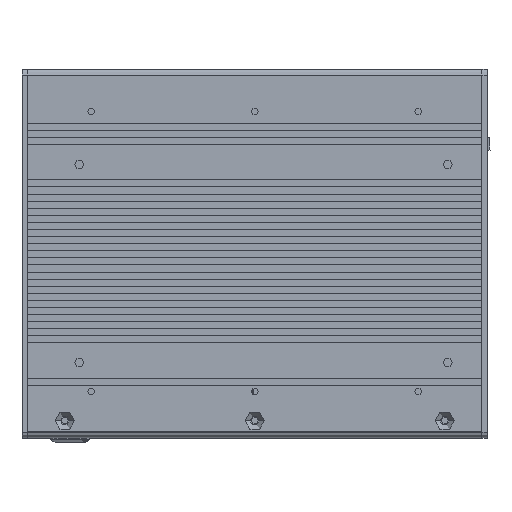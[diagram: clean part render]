
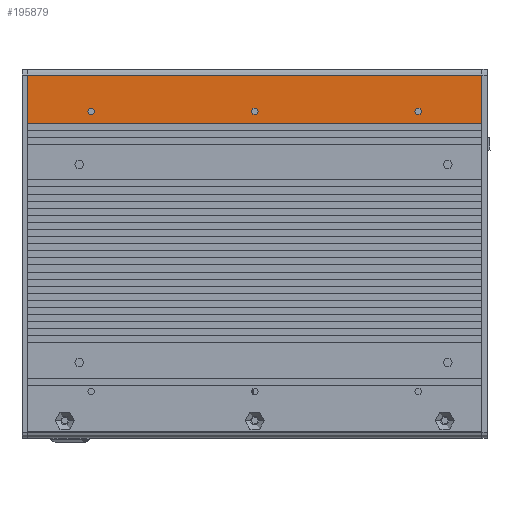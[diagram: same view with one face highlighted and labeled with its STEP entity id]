
A CAD part, top view. The second image highlights one B-rep face of the part: STEP entity #195879.
In plain terms, the highlighted planar face has unit normal (0, 0, 1) as drawn and (0, 1, 0) by its records, which use the part's own axes.
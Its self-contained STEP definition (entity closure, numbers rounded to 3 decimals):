
#8408 = ORIENTED_EDGE ( 'NONE', *, *, #136841, .T. ) ;
#13797 = DIRECTION ( 'NONE',  ( 0., 0., -1. ) ) ;
#14610 = CARTESIAN_POINT ( 'NONE',  ( -50.22, 43.5, -57.73 ) ) ;
#18547 = CARTESIAN_POINT ( 'NONE',  ( -62.5, 43.5, 80.1 ) ) ;
#21776 = DIRECTION ( 'NONE',  ( -1., 0., 0. ) ) ;
#24875 = ORIENTED_EDGE ( 'NONE', *, *, #317204, .T. ) ;
#25949 = CIRCLE ( 'NONE', #66932, 1.25 ) ;
#33882 = VECTOR ( 'NONE', #187851, 1000. ) ;
#39908 = CARTESIAN_POINT ( 'NONE',  ( -50.22, 43.5, 0. ) ) ;
#40564 = AXIS2_PLACEMENT_3D ( 'NONE', #167021, #112087, #335372 ) ;
#40950 = VERTEX_POINT ( 'NONE', #45531 ) ;
#43123 = ORIENTED_EDGE ( 'NONE', *, *, #322370, .T. ) ;
#44943 = CARTESIAN_POINT ( 'NONE',  ( -50.22, 43.5, -58.98 ) ) ;
#45531 = CARTESIAN_POINT ( 'NONE',  ( -50.22, 43.5, -1.25 ) ) ;
#46140 = AXIS2_PLACEMENT_3D ( 'NONE', #235263, #266265, #13797 ) ;
#66932 = AXIS2_PLACEMENT_3D ( 'NONE', #39908, #235702, #210021 ) ;
#68463 = EDGE_CURVE ( 'NONE', #103810, #198236, #177602, .T. ) ;
#71883 = AXIS2_PLACEMENT_3D ( 'NONE', #312553, #338195, #91117 ) ;
#72129 = AXIS2_PLACEMENT_3D ( 'NONE', #18547, #294870, #130119 ) ;
#72777 = CARTESIAN_POINT ( 'NONE',  ( -63., 43.5, 80.1 ) ) ;
#76208 = DIRECTION ( 'NONE',  ( 0., -1., 0. ) ) ;
#76413 = VERTEX_POINT ( 'NONE', #115698 ) ;
#76551 = CARTESIAN_POINT ( 'NONE',  ( -46., 43.5, 80.1 ) ) ;
#80767 = EDGE_LOOP ( 'NONE', ( #193936, #238478 ) ) ;
#91117 = DIRECTION ( 'NONE',  ( 0., 0., -1. ) ) ;
#93437 = DIRECTION ( 'NONE',  ( -1., 0., 0. ) ) ;
#94961 = EDGE_CURVE ( 'NONE', #40950, #240810, #25949, .T. ) ;
#102221 = CARTESIAN_POINT ( 'NONE',  ( -63., 43.5, 80.1 ) ) ;
#102713 = FACE_BOUND ( 'NONE', #212433, .T. ) ;
#103293 = ORIENTED_EDGE ( 'NONE', *, *, #68463, .F. ) ;
#103810 = VERTEX_POINT ( 'NONE', #76551 ) ;
#112087 = DIRECTION ( 'NONE',  ( 0., -1., 0. ) ) ;
#115698 = CARTESIAN_POINT ( 'NONE',  ( -50.22, 43.5, 56.48 ) ) ;
#116484 = VERTEX_POINT ( 'NONE', #218767 ) ;
#116933 = EDGE_CURVE ( 'NONE', #220495, #230314, #186589, .T. ) ;
#130119 = DIRECTION ( 'NONE',  ( 0., 0., -1. ) ) ;
#130892 = ORIENTED_EDGE ( 'NONE', *, *, #208534, .T. ) ;
#136841 = EDGE_CURVE ( 'NONE', #239756, #198236, #248336, .T. ) ;
#138244 = AXIS2_PLACEMENT_3D ( 'NONE', #14610, #239641, #182967 ) ;
#148310 = CARTESIAN_POINT ( 'NONE',  ( -62.5, 43.5, 80.1 ) ) ;
#154002 = PLANE ( 'NONE',  #72129 ) ;
#157623 = FACE_BOUND ( 'NONE', #80767, .T. ) ;
#160432 = LINE ( 'NONE', #354426, #33882 ) ;
#167021 = CARTESIAN_POINT ( 'NONE',  ( -50.22, 43.5, -57.73 ) ) ;
#172536 = ORIENTED_EDGE ( 'NONE', *, *, #94961, .T. ) ;
#177602 = LINE ( 'NONE', #148310, #283563 ) ;
#182967 = DIRECTION ( 'NONE',  ( 0., 0., -1. ) ) ;
#184459 = DIRECTION ( 'NONE',  ( 0., 0., 1. ) ) ;
#184716 = LINE ( 'NONE', #219370, #266486 ) ;
#186589 = CIRCLE ( 'NONE', #40564, 1.25 ) ;
#187851 = DIRECTION ( 'NONE',  ( 0., 0., 1. ) ) ;
#193936 = ORIENTED_EDGE ( 'NONE', *, *, #206824, .T. ) ;
#195879 = ADVANCED_FACE ( 'NONE', ( #293080, #157623, #102713, #214336 ), #154002, .F. ) ;
#197951 = CIRCLE ( 'NONE', #46140, 1.25 ) ;
#198236 = VERTEX_POINT ( 'NONE', #102221 ) ;
#198394 = EDGE_LOOP ( 'NONE', ( #172536, #24875 ) ) ;
#204368 = EDGE_CURVE ( 'NONE', #116484, #239756, #184716, .T. ) ;
#206824 = EDGE_CURVE ( 'NONE', #230314, #220495, #208524, .T. ) ;
#207985 = CARTESIAN_POINT ( 'NONE',  ( -50.22, 43.5, 58.98 ) ) ;
#208524 = CIRCLE ( 'NONE', #138244, 1.25 ) ;
#208534 = EDGE_CURVE ( 'NONE', #273268, #76413, #197951, .T. ) ;
#210021 = DIRECTION ( 'NONE',  ( 0., 0., -1. ) ) ;
#212433 = EDGE_LOOP ( 'NONE', ( #43123, #130892 ) ) ;
#213534 = DIRECTION ( 'NONE',  ( 0., 0., -1. ) ) ;
#214336 = FACE_OUTER_BOUND ( 'NONE', #237733, .T. ) ;
#215322 = CARTESIAN_POINT ( 'NONE',  ( -50.22, 43.5, 57.73 ) ) ;
#215999 = ORIENTED_EDGE ( 'NONE', *, *, #204368, .T. ) ;
#218767 = CARTESIAN_POINT ( 'NONE',  ( -46., 43.5, -80.1 ) ) ;
#219370 = CARTESIAN_POINT ( 'NONE',  ( -62.5, 43.5, -80.1 ) ) ;
#220495 = VERTEX_POINT ( 'NONE', #356578 ) ;
#230314 = VERTEX_POINT ( 'NONE', #44943 ) ;
#235263 = CARTESIAN_POINT ( 'NONE',  ( -50.22, 43.5, 57.73 ) ) ;
#235702 = DIRECTION ( 'NONE',  ( 0., -1., 0. ) ) ;
#237733 = EDGE_LOOP ( 'NONE', ( #103293, #286439, #215999, #8408 ) ) ;
#238478 = ORIENTED_EDGE ( 'NONE', *, *, #116933, .T. ) ;
#239641 = DIRECTION ( 'NONE',  ( 0., -1., 0. ) ) ;
#239756 = VERTEX_POINT ( 'NONE', #322751 ) ;
#240810 = VERTEX_POINT ( 'NONE', #257760 ) ;
#248336 = LINE ( 'NONE', #72777, #312722 ) ;
#257760 = CARTESIAN_POINT ( 'NONE',  ( -50.22, 43.5, 1.25 ) ) ;
#259791 = AXIS2_PLACEMENT_3D ( 'NONE', #215322, #76208, #213534 ) ;
#266265 = DIRECTION ( 'NONE',  ( 0., -1., 0. ) ) ;
#266486 = VECTOR ( 'NONE', #21776, 1000. ) ;
#273268 = VERTEX_POINT ( 'NONE', #207985 ) ;
#282476 = CIRCLE ( 'NONE', #71883, 1.25 ) ;
#283563 = VECTOR ( 'NONE', #93437, 1000. ) ;
#286439 = ORIENTED_EDGE ( 'NONE', *, *, #353554, .F. ) ;
#289051 = CIRCLE ( 'NONE', #259791, 1.25 ) ;
#293080 = FACE_BOUND ( 'NONE', #198394, .T. ) ;
#294870 = DIRECTION ( 'NONE',  ( 0., -1., 0. ) ) ;
#312553 = CARTESIAN_POINT ( 'NONE',  ( -50.22, 43.5, 0. ) ) ;
#312722 = VECTOR ( 'NONE', #184459, 1000. ) ;
#317204 = EDGE_CURVE ( 'NONE', #240810, #40950, #282476, .T. ) ;
#322370 = EDGE_CURVE ( 'NONE', #76413, #273268, #289051, .T. ) ;
#322751 = CARTESIAN_POINT ( 'NONE',  ( -63., 43.5, -80.1 ) ) ;
#335372 = DIRECTION ( 'NONE',  ( 0., 0., -1. ) ) ;
#338195 = DIRECTION ( 'NONE',  ( 0., -1., 0. ) ) ;
#353554 = EDGE_CURVE ( 'NONE', #116484, #103810, #160432, .T. ) ;
#354426 = CARTESIAN_POINT ( 'NONE',  ( -46., 43.5, -80.1 ) ) ;
#356578 = CARTESIAN_POINT ( 'NONE',  ( -50.22, 43.5, -56.48 ) ) ;
